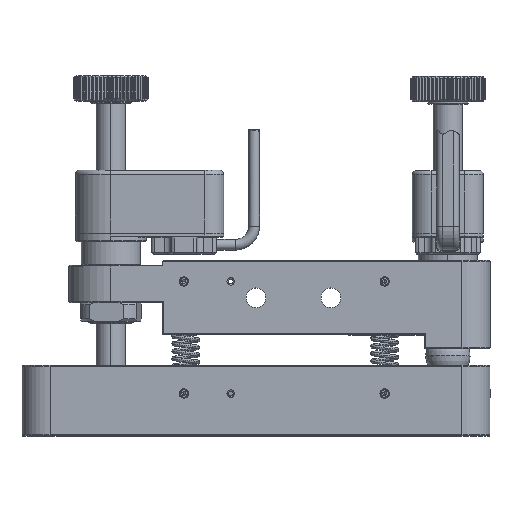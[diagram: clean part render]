
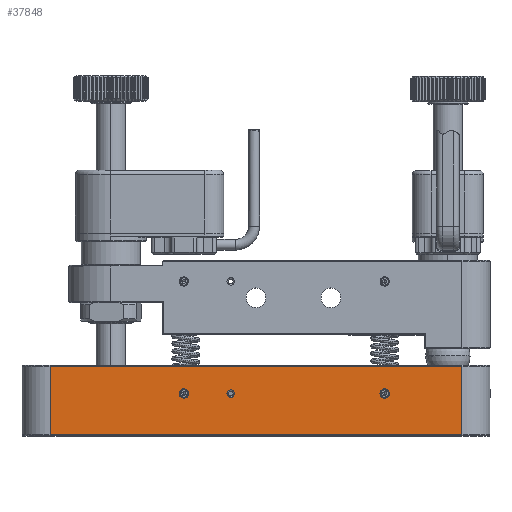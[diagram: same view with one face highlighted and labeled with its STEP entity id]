
A CAD part, top view. The second image highlights one B-rep face of the part: STEP entity #37848.
In plain terms, the highlighted planar face has unit normal (0, 0, 1) as drawn and (1, 0, 0) by its records, which use the part's own axes.
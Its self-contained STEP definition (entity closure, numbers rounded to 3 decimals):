
#25 = DIRECTION ( 'NONE',  ( 0., 0., -1. ) ) ;
#64 = PLANE ( 'NONE',  #12197 ) ;
#940 = ORIENTED_EDGE ( 'NONE', *, *, #23265, .F. ) ;
#1017 = LINE ( 'NONE', #26515, #16505 ) ;
#2070 = EDGE_LOOP ( 'NONE', ( #32417, #7737 ) ) ;
#2595 = VERTEX_POINT ( 'NONE', #19748 ) ;
#3628 = CARTESIAN_POINT ( 'NONE',  ( 50., 1., -14.602 ) ) ;
#3648 = CIRCLE ( 'NONE', #29146, 0.8 ) ;
#4684 = VERTEX_POINT ( 'NONE', #40571 ) ;
#4689 = DIRECTION ( 'NONE',  ( 0., -1., 0. ) ) ;
#5483 = CARTESIAN_POINT ( 'NONE',  ( 50., 1., -15.402 ) ) ;
#5606 = CARTESIAN_POINT ( 'NONE',  ( 50., 9.8, -44. ) ) ;
#5656 = CARTESIAN_POINT ( 'NONE',  ( 50., 1., -5.402 ) ) ;
#5893 = AXIS2_PLACEMENT_3D ( 'NONE', #42476, #6312, #13520 ) ;
#6312 = DIRECTION ( 'NONE',  ( 1., 0., 0. ) ) ;
#6321 = DIRECTION ( 'NONE',  ( 0., 0., -1. ) ) ;
#6444 = DIRECTION ( 'NONE',  ( 0., 0., 1. ) ) ;
#6449 = AXIS2_PLACEMENT_3D ( 'NONE', #42401, #25877, #9689 ) ;
#6543 = CARTESIAN_POINT ( 'NONE',  ( 50., -4.8, -44. ) ) ;
#6577 = DIRECTION ( 'NONE',  ( -1., 0., 0. ) ) ;
#7737 = ORIENTED_EDGE ( 'NONE', *, *, #35248, .F. ) ;
#8439 = CIRCLE ( 'NONE', #20999, 0.8 ) ;
#8603 = EDGE_CURVE ( 'NONE', #16499, #17280, #1017, .T. ) ;
#8771 = EDGE_LOOP ( 'NONE', ( #17519, #32458 ) ) ;
#8814 = DIRECTION ( 'NONE',  ( 1., 0., 0. ) ) ;
#9224 = CIRCLE ( 'NONE', #21643, 0.8 ) ;
#9487 = CARTESIAN_POINT ( 'NONE',  ( 50., 1., 27.486 ) ) ;
#9689 = DIRECTION ( 'NONE',  ( 0., 0., -1. ) ) ;
#9804 = ORIENTED_EDGE ( 'NONE', *, *, #32735, .T. ) ;
#10946 = LINE ( 'NONE', #6543, #36875 ) ;
#12054 = VERTEX_POINT ( 'NONE', #23078 ) ;
#12197 = AXIS2_PLACEMENT_3D ( 'NONE', #29975, #6577, #40134 ) ;
#12996 = AXIS2_PLACEMENT_3D ( 'NONE', #40460, #23798, #23942 ) ;
#13520 = DIRECTION ( 'NONE',  ( 0., 0., -1. ) ) ;
#14111 = CIRCLE ( 'NONE', #6449, 0.8 ) ;
#14572 = VERTEX_POINT ( 'NONE', #29478 ) ;
#14675 = CARTESIAN_POINT ( 'NONE',  ( 50., 1., 26.686 ) ) ;
#15422 = FACE_BOUND ( 'NONE', #8771, .T. ) ;
#15771 = VERTEX_POINT ( 'NONE', #3628 ) ;
#15874 = DIRECTION ( 'NONE',  ( 1., 0., 0. ) ) ;
#15924 = VECTOR ( 'NONE', #4689, 1000. ) ;
#16491 = EDGE_LOOP ( 'NONE', ( #940, #40878 ) ) ;
#16499 = VERTEX_POINT ( 'NONE', #5606 ) ;
#16505 = VECTOR ( 'NONE', #6444, 1000. ) ;
#17280 = VERTEX_POINT ( 'NONE', #42566 ) ;
#17519 = ORIENTED_EDGE ( 'NONE', *, *, #38230, .F. ) ;
#18536 = FACE_OUTER_BOUND ( 'NONE', #39574, .T. ) ;
#19142 = VERTEX_POINT ( 'NONE', #21536 ) ;
#19748 = CARTESIAN_POINT ( 'NONE',  ( 50., 1., -6.202 ) ) ;
#20118 = EDGE_CURVE ( 'NONE', #31924, #4684, #42677, .T. ) ;
#20616 = FACE_BOUND ( 'NONE', #2070, .T. ) ;
#20999 = AXIS2_PLACEMENT_3D ( 'NONE', #9487, #33056, #6321 ) ;
#21458 = EDGE_CURVE ( 'NONE', #14572, #2595, #14111, .T. ) ;
#21536 = CARTESIAN_POINT ( 'NONE',  ( 50., -4.8, 44. ) ) ;
#21643 = AXIS2_PLACEMENT_3D ( 'NONE', #5483, #8814, #31921 ) ;
#22256 = DIRECTION ( 'NONE',  ( 0., 0., -1. ) ) ;
#23078 = CARTESIAN_POINT ( 'NONE',  ( 50., 1., -16.202 ) ) ;
#23265 = EDGE_CURVE ( 'NONE', #2595, #14572, #3648, .T. ) ;
#23524 = EDGE_CURVE ( 'NONE', #30828, #16499, #33154, .T. ) ;
#23798 = DIRECTION ( 'NONE',  ( 1., 0., 0. ) ) ;
#23942 = DIRECTION ( 'NONE',  ( 0., 0., -1. ) ) ;
#24012 = ORIENTED_EDGE ( 'NONE', *, *, #23524, .T. ) ;
#24649 = CIRCLE ( 'NONE', #5893, 0.8 ) ;
#25877 = DIRECTION ( 'NONE',  ( 1., 0., 0. ) ) ;
#26515 = CARTESIAN_POINT ( 'NONE',  ( 50., 9.8, 50. ) ) ;
#27858 = FACE_BOUND ( 'NONE', #16491, .T. ) ;
#29146 = AXIS2_PLACEMENT_3D ( 'NONE', #5656, #15874, #22256 ) ;
#29387 = EDGE_CURVE ( 'NONE', #19142, #30828, #10946, .T. ) ;
#29478 = CARTESIAN_POINT ( 'NONE',  ( 50., 1., -4.602 ) ) ;
#29975 = CARTESIAN_POINT ( 'NONE',  ( 50., 10., 50. ) ) ;
#30041 = ORIENTED_EDGE ( 'NONE', *, *, #8603, .T. ) ;
#30828 = VERTEX_POINT ( 'NONE', #33799 ) ;
#31921 = DIRECTION ( 'NONE',  ( 0., 0., -1. ) ) ;
#31924 = VERTEX_POINT ( 'NONE', #14675 ) ;
#32417 = ORIENTED_EDGE ( 'NONE', *, *, #20118, .F. ) ;
#32458 = ORIENTED_EDGE ( 'NONE', *, *, #39441, .F. ) ;
#32735 = EDGE_CURVE ( 'NONE', #17280, #19142, #34095, .T. ) ;
#33056 = DIRECTION ( 'NONE',  ( 1., 0., 0. ) ) ;
#33154 = LINE ( 'NONE', #36320, #38381 ) ;
#33799 = CARTESIAN_POINT ( 'NONE',  ( 50., -4.8, -44. ) ) ;
#34095 = LINE ( 'NONE', #40698, #15924 ) ;
#35248 = EDGE_CURVE ( 'NONE', #4684, #31924, #8439, .T. ) ;
#36320 = CARTESIAN_POINT ( 'NONE',  ( 50., 10., -44. ) ) ;
#36875 = VECTOR ( 'NONE', #25, 1000. ) ;
#37848 = ADVANCED_FACE ( 'NONE', ( #20616, #27858, #15422, #18536 ), #64, .F. ) ;
#38230 = EDGE_CURVE ( 'NONE', #12054, #15771, #9224, .T. ) ;
#38381 = VECTOR ( 'NONE', #39787, 1000. ) ;
#39441 = EDGE_CURVE ( 'NONE', #15771, #12054, #24649, .T. ) ;
#39574 = EDGE_LOOP ( 'NONE', ( #24012, #30041, #9804, #40100 ) ) ;
#39787 = DIRECTION ( 'NONE',  ( 0., 1., 0. ) ) ;
#40100 = ORIENTED_EDGE ( 'NONE', *, *, #29387, .T. ) ;
#40134 = DIRECTION ( 'NONE',  ( 0., 0., 1. ) ) ;
#40460 = CARTESIAN_POINT ( 'NONE',  ( 50., 1., 27.486 ) ) ;
#40571 = CARTESIAN_POINT ( 'NONE',  ( 50., 1., 28.286 ) ) ;
#40698 = CARTESIAN_POINT ( 'NONE',  ( 50., 10., 44. ) ) ;
#40878 = ORIENTED_EDGE ( 'NONE', *, *, #21458, .F. ) ;
#42401 = CARTESIAN_POINT ( 'NONE',  ( 50., 1., -5.402 ) ) ;
#42476 = CARTESIAN_POINT ( 'NONE',  ( 50., 1., -15.402 ) ) ;
#42566 = CARTESIAN_POINT ( 'NONE',  ( 50., 9.8, 44. ) ) ;
#42677 = CIRCLE ( 'NONE', #12996, 0.8 ) ;
